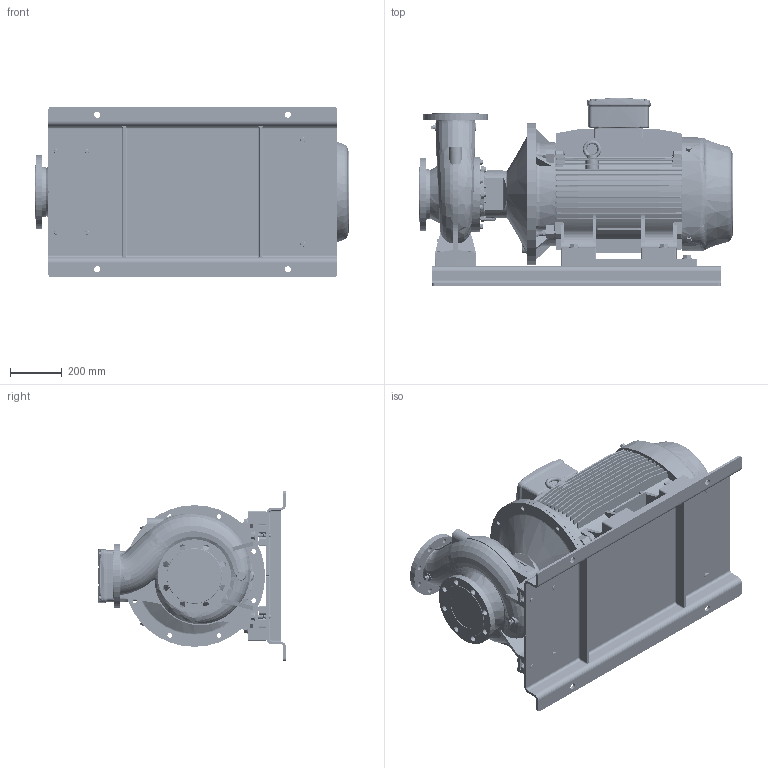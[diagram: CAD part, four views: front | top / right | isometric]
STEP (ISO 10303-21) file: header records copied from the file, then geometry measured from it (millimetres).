
FILE_DESCRIPTION (( 'STEP AP214' ), '1' );
FILE_NAME ('GSD2 125-200_55 & 75_(250SM)_W21_BP.STEP', '2026-05-04T05:54:44', ( '' ), ( '' ), 'SwSTEP 2.0', 'SolidWorks 2024', '' );
FILE_SCHEMA (( 'AUTOMOTIVE_DESIGN' ));
Length unit declared in the file: millimetre
Products named in the file (13): Parametric bolt and washer_SFT-A365B; Parametric bolt and washer_SFT-A417B; 250S_M2P IE3_W21T_B35; CGS11-5321_2_3_4_5_CGS11-5324; Parametric Flat Washer_M20; N8S3 GSDA-839 F1-1832963-00; Parametric Flat Washer_M16; 100x30 - CGSDA-5291; Parametric bolt_SFT-A365B; Parametric bolt_SFT-A417B; A407B Bolt_407; 125-200-250S_M_ﾃﾞﾌｫﾙﾄ; GSD2  125-200_55 & 75_(250SM)_W21_BP
Assembly tree (23 placements, depth 3):
  GSD2  125-200_55 & 75_(250SM)_W21_BP
    125-200-250S_M_ﾃﾞﾌｫﾙﾄ
    250S_M2P IE3_W21T_B35
    N8S3 GSDA-839 F1-1832963-00
    CGS11-5321_2_3_4_5_CGS11-5324  x2
    100x30 - CGSDA-5291  x2
    A407B Bolt_407  x2
    Parametric Flat Washer_M20  x2
    Parametric bolt and washer_SFT-A365B  x4
      Parametric bolt_SFT-A365B
      Parametric Flat Washer_M16
    Parametric bolt and washer_SFT-A417B  x4
      Parametric bolt_SFT-A417B
      Parametric Flat Washer_M20
Bounding box: 1215.5 x 728 x 660 mm (x, y, z)
Volume: 160782224.2 mm3; surface area: 7470348.8 mm2
Topology: 28 solids, 33 shells, 4222 faces, 11182 edges, 7158 vertices
Faces by surface type: plane 1640, cylinder 1509, cone 467, bspline 300, torus 290, sphere 16
Entity records: 176677 total; most frequent: CARTESIAN_POINT 89808, ORIENTED_EDGE 19098, DIRECTION 17177, EDGE_CURVE 9549, AXIS2_PLACEMENT_3D 6296, VERTEX_POINT 6097, LINE 4585, VECTOR 4585
